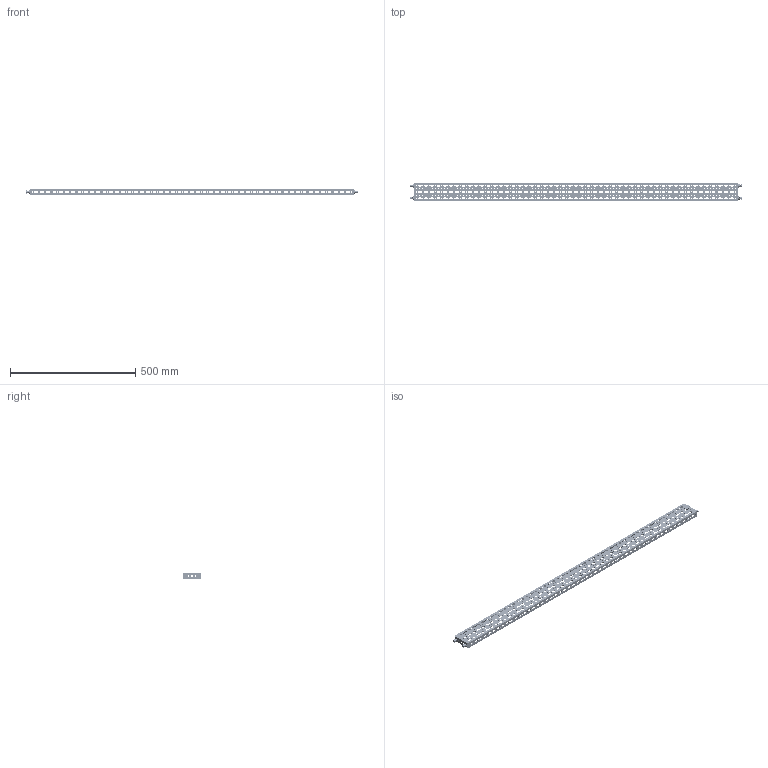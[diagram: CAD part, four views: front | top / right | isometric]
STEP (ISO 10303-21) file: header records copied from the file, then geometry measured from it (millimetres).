
FILE_DESCRIPTION(('Open CASCADE Model'),'2;1');
FILE_NAME('Open CASCADE Shape Model','2025-02-21T17:50:17',('Author'),( 'Open CASCADE'),'Open CASCADE STEP processor 7.8','Open CASCADE 7.8' ,'Unknown');
FILE_SCHEMA(('AUTOMOTIVE_DESIGN { 1 0 10303 214 1 1 1 1 }'));
Length unit declared in the file: millimetre
Products named in the file (4): Compound1; Solid1; Solid2; Solid3
Assembly tree (9 placements, depth 2):
  Compound1
    Solid1
    Solid2  x4
    Solid3  x4
Bounding box: 1327.6 x 75 x 25 mm (x, y, z)
Volume: 224598.7 mm3; surface area: 330614.6 mm2
Topology: 13 solids, 13 shells, 5350 faces, 15993 edges, 10661 vertices
Faces by surface type: cylinder 3182, plane 1892, bspline 176, torus 56, cone 40, sphere 4
Full cylindrical faces by diameter (mm): 4.2 x466, 5.5 x4, 6 x4, 6.5 x10, 8.3 x4, 12 x4
Entity records: 172540 total; most frequent: CARTESIAN_POINT 33968, DIRECTION 29826, ORIENTED_EDGE 29092, EDGE_CURVE 14546, AXIS2_PLACEMENT_3D 11193, VERTEX_POINT 9764, LINE 7440, VECTOR 7440
